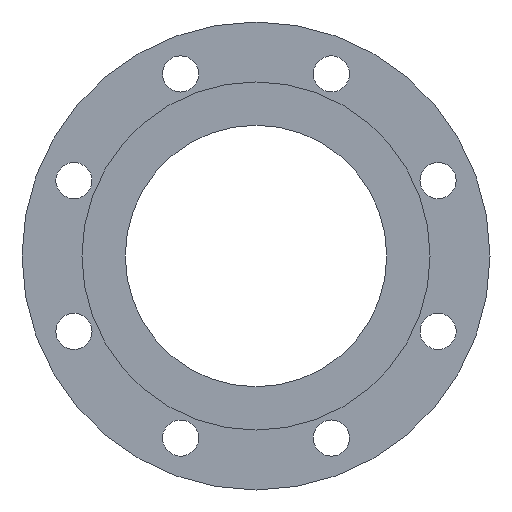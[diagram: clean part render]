
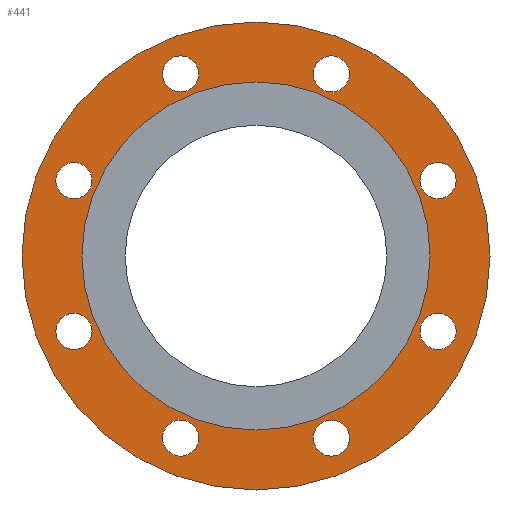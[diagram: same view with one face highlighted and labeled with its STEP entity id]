
A CAD part, left-side view. The second image highlights one B-rep face of the part: STEP entity #441.
In plain terms, the highlighted planar face has unit normal (-1, 0, 0).
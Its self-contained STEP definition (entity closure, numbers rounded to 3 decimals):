
#27=FACE_BOUND('',#90,.T.);
#28=FACE_BOUND('',#91,.T.);
#29=FACE_BOUND('',#92,.T.);
#30=FACE_BOUND('',#93,.T.);
#31=FACE_BOUND('',#94,.T.);
#32=FACE_BOUND('',#95,.T.);
#33=FACE_BOUND('',#96,.T.);
#34=FACE_BOUND('',#97,.T.);
#35=FACE_BOUND('',#98,.T.);
#40=PLANE('',#524);
#58=FACE_OUTER_BOUND('',#89,.T.);
#89=EDGE_LOOP('',(#382,#383));
#90=EDGE_LOOP('',(#384));
#91=EDGE_LOOP('',(#385));
#92=EDGE_LOOP('',(#386));
#93=EDGE_LOOP('',(#387));
#94=EDGE_LOOP('',(#388));
#95=EDGE_LOOP('',(#389));
#96=EDGE_LOOP('',(#390));
#97=EDGE_LOOP('',(#391));
#98=EDGE_LOOP('',(#392,#393));
#134=CIRCLE('',#469,11.);
#137=CIRCLE('',#473,11.);
#140=CIRCLE('',#477,11.);
#143=CIRCLE('',#481,11.);
#146=CIRCLE('',#485,11.);
#149=CIRCLE('',#489,11.);
#152=CIRCLE('',#493,11.);
#155=CIRCLE('',#497,11.);
#173=CIRCLE('',#522,106.);
#174=CIRCLE('',#523,106.);
#175=CIRCLE('',#525,142.5);
#176=CIRCLE('',#526,142.5);
#182=VERTEX_POINT('',#692);
#185=VERTEX_POINT('',#700);
#188=VERTEX_POINT('',#708);
#191=VERTEX_POINT('',#716);
#194=VERTEX_POINT('',#724);
#197=VERTEX_POINT('',#732);
#200=VERTEX_POINT('',#740);
#203=VERTEX_POINT('',#748);
#220=VERTEX_POINT('',#793);
#221=VERTEX_POINT('',#794);
#222=VERTEX_POINT('',#799);
#223=VERTEX_POINT('',#800);
#230=EDGE_CURVE('',#182,#182,#134,.T.);
#234=EDGE_CURVE('',#185,#185,#137,.T.);
#238=EDGE_CURVE('',#188,#188,#140,.T.);
#242=EDGE_CURVE('',#191,#191,#143,.T.);
#246=EDGE_CURVE('',#194,#194,#146,.T.);
#250=EDGE_CURVE('',#197,#197,#149,.T.);
#254=EDGE_CURVE('',#200,#200,#152,.T.);
#258=EDGE_CURVE('',#203,#203,#155,.T.);
#278=EDGE_CURVE('',#220,#221,#173,.T.);
#279=EDGE_CURVE('',#221,#220,#174,.T.);
#281=EDGE_CURVE('',#222,#223,#175,.T.);
#282=EDGE_CURVE('',#223,#222,#176,.T.);
#382=ORIENTED_EDGE('',*,*,#281,.F.);
#383=ORIENTED_EDGE('',*,*,#282,.F.);
#384=ORIENTED_EDGE('',*,*,#230,.T.);
#385=ORIENTED_EDGE('',*,*,#234,.T.);
#386=ORIENTED_EDGE('',*,*,#238,.T.);
#387=ORIENTED_EDGE('',*,*,#242,.T.);
#388=ORIENTED_EDGE('',*,*,#246,.T.);
#389=ORIENTED_EDGE('',*,*,#250,.T.);
#390=ORIENTED_EDGE('',*,*,#254,.T.);
#391=ORIENTED_EDGE('',*,*,#258,.T.);
#392=ORIENTED_EDGE('',*,*,#278,.T.);
#393=ORIENTED_EDGE('',*,*,#279,.T.);
#441=ADVANCED_FACE('',(#58,#27,#28,#29,#30,#31,#32,#33,#34,#35),#40,.T.);
#469=AXIS2_PLACEMENT_3D('',#694,#543,#544);
#473=AXIS2_PLACEMENT_3D('',#702,#552,#553);
#477=AXIS2_PLACEMENT_3D('',#710,#561,#562);
#481=AXIS2_PLACEMENT_3D('',#718,#570,#571);
#485=AXIS2_PLACEMENT_3D('',#726,#579,#580);
#489=AXIS2_PLACEMENT_3D('',#734,#588,#589);
#493=AXIS2_PLACEMENT_3D('',#742,#597,#598);
#497=AXIS2_PLACEMENT_3D('',#750,#606,#607);
#522=AXIS2_PLACEMENT_3D('',#795,#658,#659);
#523=AXIS2_PLACEMENT_3D('',#796,#660,#661);
#524=AXIS2_PLACEMENT_3D('',#798,#663,#664);
#525=AXIS2_PLACEMENT_3D('',#801,#665,#666);
#526=AXIS2_PLACEMENT_3D('',#802,#667,#668);
#543=DIRECTION('center_axis',(1.,0.,0.));
#544=DIRECTION('ref_axis',(0.,-0.707,-0.707));
#552=DIRECTION('center_axis',(1.,0.,0.));
#553=DIRECTION('ref_axis',(0.,-1.,0.));
#561=DIRECTION('center_axis',(1.,0.,0.));
#562=DIRECTION('ref_axis',(0.,-0.707,0.707));
#570=DIRECTION('center_axis',(1.,0.,0.));
#571=DIRECTION('ref_axis',(0.,0.,1.));
#579=DIRECTION('center_axis',(1.,0.,0.));
#580=DIRECTION('ref_axis',(0.,0.707,0.707));
#588=DIRECTION('center_axis',(1.,0.,0.));
#589=DIRECTION('ref_axis',(0.,1.,0.));
#597=DIRECTION('center_axis',(1.,0.,0.));
#598=DIRECTION('ref_axis',(0.,0.707,-0.707));
#606=DIRECTION('center_axis',(1.,0.,0.));
#607=DIRECTION('ref_axis',(0.,0.,-1.));
#658=DIRECTION('center_axis',(1.,0.,0.));
#659=DIRECTION('ref_axis',(0.,0.,-1.));
#660=DIRECTION('center_axis',(1.,0.,0.));
#661=DIRECTION('ref_axis',(0.,0.,-1.));
#663=DIRECTION('center_axis',(-1.,0.,0.));
#664=DIRECTION('ref_axis',(0.,0.,1.));
#665=DIRECTION('center_axis',(1.,0.,0.));
#666=DIRECTION('ref_axis',(0.,0.,-1.));
#667=DIRECTION('center_axis',(1.,0.,0.));
#668=DIRECTION('ref_axis',(0.,0.,-1.));
#692=CARTESIAN_POINT('',(-52.,118.644,53.7));
#694=CARTESIAN_POINT('Origin',(-52.,110.866,45.922));
#700=CARTESIAN_POINT('',(-52.,121.866,-45.922));
#702=CARTESIAN_POINT('Origin',(-52.,110.866,-45.922));
#708=CARTESIAN_POINT('',(-52.,53.7,-118.644));
#710=CARTESIAN_POINT('Origin',(-52.,45.922,-110.866));
#716=CARTESIAN_POINT('',(-52.,-45.922,-121.866));
#718=CARTESIAN_POINT('Origin',(-52.,-45.922,-110.866));
#724=CARTESIAN_POINT('',(-52.,-118.644,-53.7));
#726=CARTESIAN_POINT('Origin',(-52.,-110.866,-45.922));
#732=CARTESIAN_POINT('',(-52.,-121.866,45.922));
#734=CARTESIAN_POINT('Origin',(-52.,-110.866,45.922));
#740=CARTESIAN_POINT('',(-52.,-53.7,118.644));
#742=CARTESIAN_POINT('Origin',(-52.,-45.922,110.866));
#748=CARTESIAN_POINT('',(-52.,45.922,121.866));
#750=CARTESIAN_POINT('Origin',(-52.,45.922,110.866));
#793=CARTESIAN_POINT('',(-52.,106.,0.));
#794=CARTESIAN_POINT('',(-52.,-106.,0.));
#795=CARTESIAN_POINT('Origin',(-52.,0.,0.));
#796=CARTESIAN_POINT('Origin',(-52.,0.,0.));
#798=CARTESIAN_POINT('Origin',(-52.,142.5,0.));
#799=CARTESIAN_POINT('',(-52.,142.5,0.));
#800=CARTESIAN_POINT('',(-52.,-142.5,0.));
#801=CARTESIAN_POINT('Origin',(-52.,0.,0.));
#802=CARTESIAN_POINT('Origin',(-52.,0.,0.));
